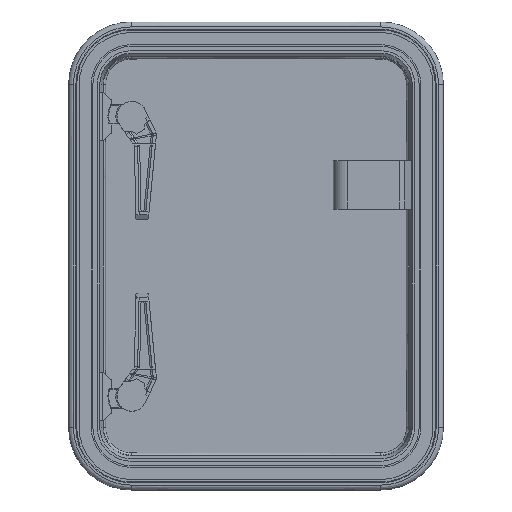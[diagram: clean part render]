
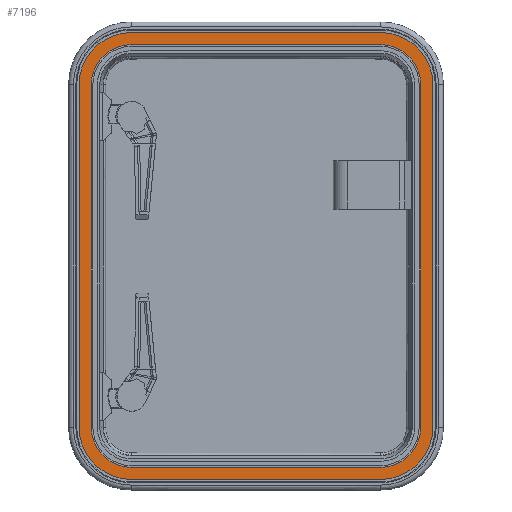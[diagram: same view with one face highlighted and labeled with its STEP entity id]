
A CAD part, top view. The second image highlights one B-rep face of the part: STEP entity #7196.
In plain terms, the highlighted planar face has unit normal (0, 0, 1) as drawn and (0, 0, -1) by its records, which use the part's own axes.
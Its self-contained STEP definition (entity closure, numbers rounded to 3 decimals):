
#1545=DIRECTION('',(1.,0.,0.));
#1546=VECTOR('',#1545,308.);
#1547=CARTESIAN_POINT('',(77.5,28.,-1.5));
#1548=LINE('',#1547,#1546);
#1553=CARTESIAN_POINT('',(77.5,77.5,-1.5));
#1554=DIRECTION('',(0.,0.,1.));
#1555=DIRECTION('',(-1.,0.,0.));
#1556=AXIS2_PLACEMENT_3D('',#1553,#1554,#1555);
#1566=DIRECTION('',(0.,-1.,0.));
#1567=VECTOR('',#1566,423.);
#1568=CARTESIAN_POINT('',(28.,500.5,-1.5));
#1569=LINE('',#1568,#1567);
#1574=CARTESIAN_POINT('',(77.5,500.5,-1.5));
#1575=DIRECTION('',(0.,0.,1.));
#1576=DIRECTION('',(0.,1.,0.));
#1577=AXIS2_PLACEMENT_3D('',#1574,#1575,#1576);
#1583=DIRECTION('',(-1.,0.,0.));
#1584=VECTOR('',#1583,308.);
#1585=CARTESIAN_POINT('',(385.5,550.,-1.5));
#1586=LINE('',#1585,#1584);
#1591=CARTESIAN_POINT('',(385.5,500.5,-1.5));
#1592=DIRECTION('',(0.,0.,1.));
#1593=DIRECTION('',(1.,0.,0.));
#1594=AXIS2_PLACEMENT_3D('',#1591,#1592,#1593);
#1600=DIRECTION('',(0.,1.,0.));
#1601=VECTOR('',#1600,423.);
#1602=CARTESIAN_POINT('',(435.,77.5,-1.5));
#1603=LINE('',#1602,#1601);
#1608=CARTESIAN_POINT('',(385.5,77.5,-1.5));
#1609=DIRECTION('',(0.,0.,1.));
#1610=DIRECTION('',(0.,-1.,0.));
#1611=AXIS2_PLACEMENT_3D('',#1608,#1609,#1610);
#1613=DIRECTION('',(1.,0.,0.));
#1614=VECTOR('',#1613,308.);
#1615=CARTESIAN_POINT('',(77.5,13.,-1.5));
#1616=LINE('',#1615,#1614);
#1617=CARTESIAN_POINT('',(385.5,77.5,-1.5));
#1618=DIRECTION('',(0.,0.,1.));
#1619=DIRECTION('',(0.,-1.,0.));
#1620=AXIS2_PLACEMENT_3D('',#1617,#1618,#1619);
#1622=DIRECTION('',(0.,1.,0.));
#1623=VECTOR('',#1622,423.);
#1624=CARTESIAN_POINT('',(450.,77.5,-1.5));
#1625=LINE('',#1624,#1623);
#1626=CARTESIAN_POINT('',(385.5,500.5,-1.5));
#1627=DIRECTION('',(0.,0.,1.));
#1628=DIRECTION('',(1.,0.,0.));
#1629=AXIS2_PLACEMENT_3D('',#1626,#1627,#1628);
#1631=DIRECTION('',(-1.,0.,0.));
#1632=VECTOR('',#1631,308.);
#1633=CARTESIAN_POINT('',(385.5,565.,-1.5));
#1634=LINE('',#1633,#1632);
#1635=CARTESIAN_POINT('',(77.5,500.5,-1.5));
#1636=DIRECTION('',(0.,0.,1.));
#1637=DIRECTION('',(0.,1.,0.));
#1638=AXIS2_PLACEMENT_3D('',#1635,#1636,#1637);
#1640=DIRECTION('',(0.,-1.,0.));
#1641=VECTOR('',#1640,423.);
#1642=CARTESIAN_POINT('',(13.,500.5,-1.5));
#1643=LINE('',#1642,#1641);
#1644=CARTESIAN_POINT('',(77.5,77.5,-1.5));
#1645=DIRECTION('',(0.,0.,1.));
#1646=DIRECTION('',(-1.,0.,0.));
#1647=AXIS2_PLACEMENT_3D('',#1644,#1645,#1646);
#2029=CARTESIAN_POINT('',(77.5,13.,-1.5));
#2031=VERTEX_POINT('',#2029);
#2032=CARTESIAN_POINT('',(77.5,28.,-1.5));
#2034=VERTEX_POINT('',#2032);
#2070=CARTESIAN_POINT('',(385.5,13.,-1.5));
#2072=VERTEX_POINT('',#2070);
#2073=CARTESIAN_POINT('',(385.5,28.,-1.5));
#2075=VERTEX_POINT('',#2073);
#2111=CARTESIAN_POINT('',(450.,77.5,-1.5));
#2113=VERTEX_POINT('',#2111);
#2114=CARTESIAN_POINT('',(435.,77.5,-1.5));
#2116=VERTEX_POINT('',#2114);
#2152=CARTESIAN_POINT('',(450.,500.5,-1.5));
#2154=VERTEX_POINT('',#2152);
#2155=CARTESIAN_POINT('',(435.,500.5,-1.5));
#2157=VERTEX_POINT('',#2155);
#2193=CARTESIAN_POINT('',(385.5,565.,-1.5));
#2195=VERTEX_POINT('',#2193);
#2196=CARTESIAN_POINT('',(385.5,550.,-1.5));
#2198=VERTEX_POINT('',#2196);
#2234=CARTESIAN_POINT('',(77.5,565.,-1.5));
#2236=VERTEX_POINT('',#2234);
#2237=CARTESIAN_POINT('',(77.5,550.,-1.5));
#2239=VERTEX_POINT('',#2237);
#2275=CARTESIAN_POINT('',(13.,500.5,-1.5));
#2277=VERTEX_POINT('',#2275);
#2278=CARTESIAN_POINT('',(28.,500.5,-1.5));
#2280=VERTEX_POINT('',#2278);
#2316=CARTESIAN_POINT('',(13.,77.5,-1.5));
#2318=VERTEX_POINT('',#2316);
#2319=CARTESIAN_POINT('',(28.,77.5,-1.5));
#2321=VERTEX_POINT('',#2319);
#7163=CARTESIAN_POINT('',(231.5,20.5,-1.5));
#7164=DIRECTION('',(0.,0.,1.));
#7165=DIRECTION('',(0.,1.,0.));
#7166=AXIS2_PLACEMENT_3D('',#7163,#7164,#7165);
#7167=PLANE('',#7166);
#7169=ORIENTED_EDGE('',*,*,#7168,.T.);
#7171=ORIENTED_EDGE('',*,*,#7170,.T.);
#7173=ORIENTED_EDGE('',*,*,#7172,.T.);
#7175=ORIENTED_EDGE('',*,*,#7174,.T.);
#7177=ORIENTED_EDGE('',*,*,#7176,.T.);
#7179=ORIENTED_EDGE('',*,*,#7178,.T.);
#7181=ORIENTED_EDGE('',*,*,#7180,.T.);
#7183=ORIENTED_EDGE('',*,*,#7182,.T.);
#7184=EDGE_LOOP('',(#7169,#7171,#7173,#7175,#7177,#7179,#7181,#7183));
#7185=FACE_OUTER_BOUND('',#7184,.F.);
#7186=ORIENTED_EDGE('',*,*,#7073,.F.);
#7187=ORIENTED_EDGE('',*,*,#7087,.F.);
#7188=ORIENTED_EDGE('',*,*,#7101,.F.);
#7189=ORIENTED_EDGE('',*,*,#7115,.F.);
#7190=ORIENTED_EDGE('',*,*,#7129,.F.);
#7191=ORIENTED_EDGE('',*,*,#7143,.F.);
#7192=ORIENTED_EDGE('',*,*,#7156,.F.);
#7193=ORIENTED_EDGE('',*,*,#7058,.F.);
#7194=EDGE_LOOP('',(#7186,#7187,#7188,#7189,#7190,#7191,#7192,#7193));
#7195=FACE_BOUND('',#7194,.F.);
#7196=ADVANCED_FACE('',(#7185,#7195),#7167,.F.);
#1557=CIRCLE('',#1556,49.5);
#1578=CIRCLE('',#1577,49.5);
#1595=CIRCLE('',#1594,49.5);
#1612=CIRCLE('',#1611,49.5);
#1621=CIRCLE('',#1620,64.5);
#1630=CIRCLE('',#1629,64.5);
#1639=CIRCLE('',#1638,64.5);
#1648=CIRCLE('',#1647,64.5);
#7058=EDGE_CURVE('',#2034,#2075,#1548,.T.);
#7073=EDGE_CURVE('',#2321,#2034,#1557,.T.);
#7087=EDGE_CURVE('',#2280,#2321,#1569,.T.);
#7101=EDGE_CURVE('',#2239,#2280,#1578,.T.);
#7115=EDGE_CURVE('',#2198,#2239,#1586,.T.);
#7129=EDGE_CURVE('',#2157,#2198,#1595,.T.);
#7143=EDGE_CURVE('',#2116,#2157,#1603,.T.);
#7156=EDGE_CURVE('',#2075,#2116,#1612,.T.);
#7168=EDGE_CURVE('',#2031,#2072,#1616,.T.);
#7170=EDGE_CURVE('',#2072,#2113,#1621,.T.);
#7172=EDGE_CURVE('',#2113,#2154,#1625,.T.);
#7174=EDGE_CURVE('',#2154,#2195,#1630,.T.);
#7176=EDGE_CURVE('',#2195,#2236,#1634,.T.);
#7178=EDGE_CURVE('',#2236,#2277,#1639,.T.);
#7180=EDGE_CURVE('',#2277,#2318,#1643,.T.);
#7182=EDGE_CURVE('',#2318,#2031,#1648,.T.);
